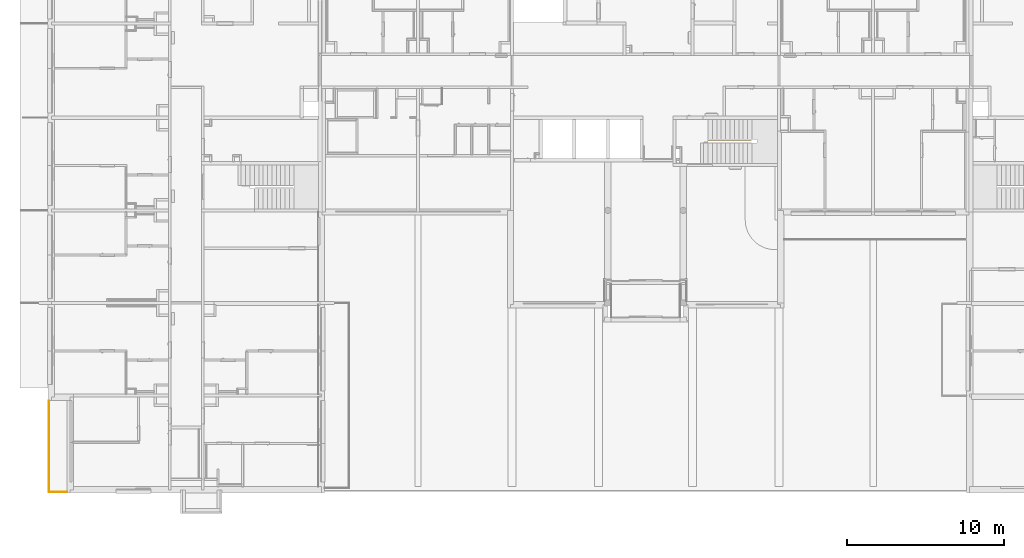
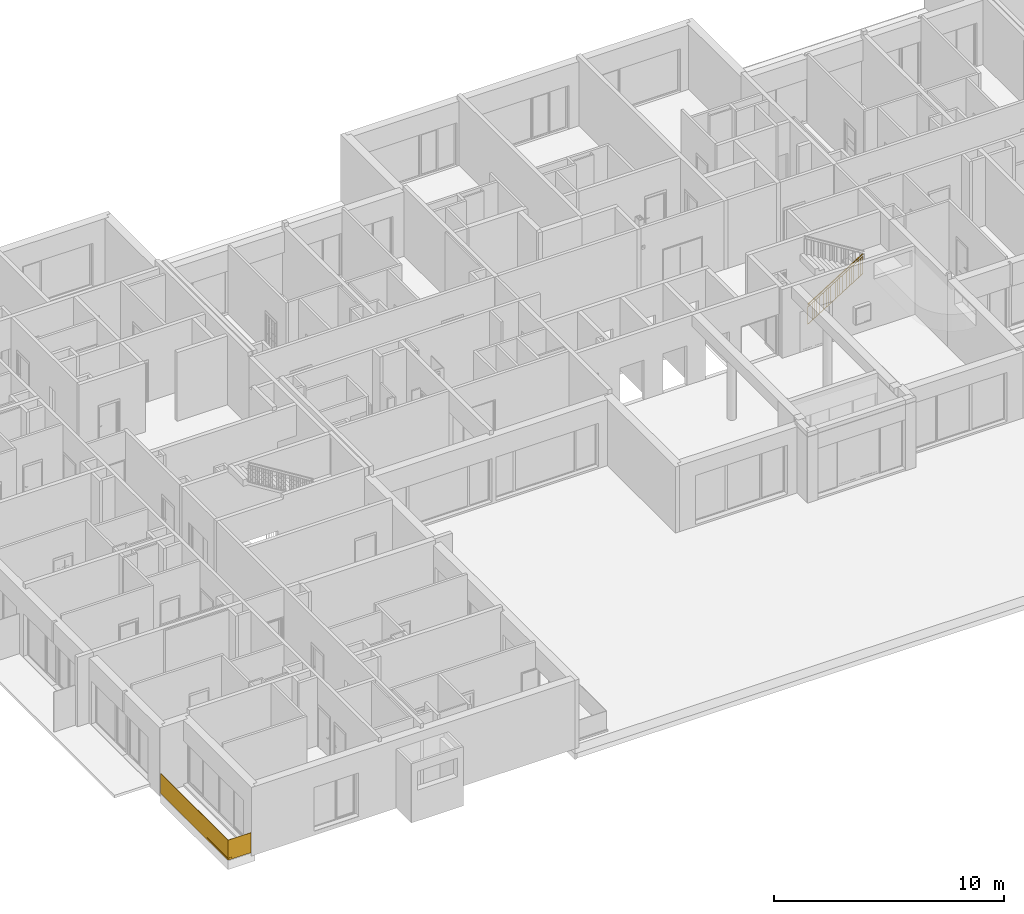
# One storey, part 5 of 46: 2 railings.
"""IFC2X3 building model written with IfcOpenShell, lengths in millimetres."""

from ifc_helpers import new_model, entity, si_unit, converted_unit, derived_unit, money_unit, direction, frame, origin_with_axes, place, context, subcontext, project, spatial, faceted_brep, material, material_list, type_object, element, save


model = new_model("IFC2X3")

# Units and contexts
model_context = context("Model", 3, precision=0.01, world=origin_with_axes(), true_north=direction((0.34421633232, 0.938890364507)))
body_context = subcontext(model_context, "Body", "Model", "MODEL_VIEW")
ifc_project = project(units=[si_unit("LENGTHUNIT", "METRE", prefix="MILLI"), si_unit("AREAUNIT", "SQUARE_METRE"), si_unit("VOLUMEUNIT", "CUBIC_METRE"), converted_unit("PLANEANGLEUNIT", "DEGREE", entity("IfcPlaneAngleMeasure", 0.0174532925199), si_unit("PLANEANGLEUNIT", "RADIAN"), dimensions=[0, 0, 0, 0, 0, 0, 0]), si_unit("SOLIDANGLEUNIT", "STERADIAN"), money_unit("USD"), converted_unit("TIMEUNIT", "Year", entity("IfcTimeMeasure", 31556926.0), si_unit("TIMEUNIT", "SECOND"), dimensions=[0, 0, 1, 0, 0, 0, 0]), si_unit("MASSUNIT", "GRAM", prefix="KILO"), si_unit("THERMODYNAMICTEMPERATUREUNIT", "DEGREE_CELSIUS"), si_unit("LUMINOUSINTENSITYUNIT", "LUMEN"), si_unit("ENERGYUNIT", "JOULE", prefix="MEGA"), derived_unit("THERMALCONDUCTANCEUNIT", [(si_unit("POWERUNIT", "WATT"), 1), (si_unit("LENGTHUNIT", "METRE"), -1), (si_unit("THERMODYNAMICTEMPERATUREUNIT", "KELVIN"), -1)]), derived_unit("SPECIFICHEATCAPACITYUNIT", [(si_unit("ENERGYUNIT", "JOULE"), 1), (si_unit("MASSUNIT", "GRAM", prefix="KILO"), -1), (si_unit("THERMODYNAMICTEMPERATUREUNIT", "KELVIN"), -1)]), derived_unit("MASSDENSITYUNIT", [(si_unit("MASSUNIT", "GRAM", prefix="KILO"), 1), (si_unit("VOLUMEUNIT", "CUBIC_METRE"), -1)])], contexts=[model_context])

# Site, building, storey
site_placement = place(None, origin_with_axes())
site = spatial("IfcSite", under=ifc_project, at=site_placement, Name="USTRONIE MORSKIE", CompositionType="ELEMENT")
building_placement = place(site_placement, origin_with_axes())
building = spatial("IfcBuilding", under=site, at=building_placement, Name="Budynek", CompositionType="ELEMENT")
storey_placement = place(building_placement, origin_with_axes())
storey = spatial("IfcBuildingStorey", under=building, at=storey_placement, Name="PARTER", CompositionType="ELEMENT", Elevation=0.0)

# Railings
ifc_material_1 = material(Name="Szkło struktualne")
ifc_material_2 = material(Name="Profile aluminiowe")
ifc_material_list_1 = material_list([ifc_material_1, ifc_material_2, ifc_material_1, ifc_material_2])
railing_type = type_object("IfcRailingType", Name="Typ balustrady", PredefinedType="NOTDEFINED")
railing_1_placement = place(storey_placement, frame((350367.920919, 720801.199105, 30.0), z_axis=(0.0, 0.0, 1.0), x_axis=(-1.0, 0.0, 0.0)))
element("IfcRailing", 1, at=railing_1_placement, inside=storey, type_object=railing_type, material=ifc_material_list_1, Name="BL1", PredefinedType="NOTDEFINED", context=body_context, shape_type="Brep", body=[
    faceted_brep([(540.000000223, 6020.00006852, -100.00000039), (540.000000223, 6020.00006852, 950.000000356), (540.000000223, 11840.0000688, 950.000000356), (540.000000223, 11840.0000688, -100.00000039), (559.999999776, 6020.00006852, 950.000000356), (559.999999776, 6020.00006852, -100.00000039), (559.999999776, 11860.0000684, 950.000000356), (559.999999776, 11860.0000684, -100.00000039)], [[[0, 1, 2, 3]], [[4, 1, 0, 5]], [[2, 1, 4, 6]], [[3, 2, 6, 7]], [[5, 0, 3, 7]], [[6, 4, 5, 7]]]),
    faceted_brep([(565.0, 11850.0000689, -5.0), (565.0, 6020.00006891, -5.0), (565.0, 6020.00006891, -105.0), (565.0, 11850.0000689, -105.0), (560.0, 11850.0000689, -5.0), (560.0, 6020.00006891, -5.0), (560.0, 6020.00006891, -100.0), (540.0, 6020.00006891, -100.0), (540.0, 6020.00006891, -5.0), (535.0, 6020.00006891, -5.0), (535.0, 6020.00006891, -105.0), (535.0, 11850.0000689, -105.0), (535.0, 11850.0000689, -5.0), (540.0, 11850.0000689, -5.0), (540.0, 11850.0000689, -100.0), (560.0, 11850.0000689, -100.0)], [[[0, 1, 2, 3]], [[1, 0, 4, 5]], [[6, 7, 8, 9, 10, 2, 1, 5]], [[10, 11, 3, 2]], [[11, 12, 13, 14, 15, 4, 0, 3]], [[15, 6, 5, 4]], [[7, 6, 15, 14]], [[8, 7, 14, 13]], [[9, 8, 13, 12]], [[11, 10, 9, 12]]]),
    faceted_brep([(540.000000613, 11840.0000691, -100.00000039), (540.000000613, 11840.0000691, 950.000000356), (-599.999999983, 11840.0000691, 950.000000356), (-599.999999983, 11840.0000691, -100.00000039), (560.000000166, 11860.0000687, 950.000000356), (560.000000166, 11860.0000687, -100.00000039), (-599.999999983, 11860.0000687, 950.000000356), (-599.999999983, 11860.0000687, -100.00000039)], [[[0, 1, 2, 3]], [[4, 1, 0, 5]], [[2, 1, 4, 6]], [[3, 2, 6, 7]], [[5, 0, 3, 7]], [[6, 4, 5, 7]]]),
    faceted_brep([(-600.0, 11865.0000689, -5.0), (550.0, 11865.0000689, -5.0), (550.0, 11865.0000689, -105.0), (-600.0, 11865.0000689, -105.0), (-600.0, 11860.0000689, -5.0), (550.0, 11860.0000689, -5.0), (550.0, 11860.0000689, -100.0), (550.0, 11840.0000689, -100.0), (550.0, 11840.0000689, -5.0), (550.0, 11835.0000689, -5.0), (550.0, 11835.0000689, -105.0), (-600.0, 11835.0000689, -105.0), (-600.0, 11835.0000689, -5.0), (-600.0, 11840.0000689, -5.0), (-600.0, 11840.0000689, -100.0), (-600.0, 11860.0000689, -100.0)], [[[0, 1, 2, 3]], [[1, 0, 4, 5]], [[6, 7, 8, 9, 10, 2, 1, 5]], [[10, 11, 3, 2]], [[11, 12, 13, 14, 15, 4, 0, 3]], [[15, 6, 5, 4]], [[7, 6, 15, 14]], [[8, 7, 14, 13]], [[9, 8, 13, 12]], [[11, 10, 9, 12]]]),
])
ifc_material_3 = material(Name="Stal konstrukcyjna")
ifc_material_4 = material(Name="Stal nierdzewna")
ifc_material_list_2 = material_list([ifc_material_3, ifc_material_3, ifc_material_4, ifc_material_4, ifc_material_4, ifc_material_3, ifc_material_3, ifc_material_3, ifc_material_3, ifc_material_3, ifc_material_3, ifc_material_3, ifc_material_3, ifc_material_3, ifc_material_3, ifc_material_3, ifc_material_3, ifc_material_3, ifc_material_3, ifc_material_3, ifc_material_3, ifc_material_3, ifc_material_3, ifc_material_3, ifc_material_3, ifc_material_3, ifc_material_3, ifc_material_3])
railing_2_placement = place(storey_placement, frame((391797.920919, 731401.199036, 173.913043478), z_axis=(0.0, 0.0, 1.0), x_axis=(1.0, 0.0, 0.0)))
element("IfcRailing", 2, at=railing_2_placement, inside=storey, type_object=railing_type, material=ifc_material_list_2, Name="BL1", PredefinedType="NOTDEFINED", context=body_context, shape_type="Brep", body=[
    faceted_brep([(9.99999999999, -45.0, -143.788819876), (9.99999999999, -25.0, -143.788819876), (9.99999999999, -25.0, 756.211180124), (9.99999999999, -45.0, 756.211180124), (-9.99999999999, -45.0, -156.211180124), (-9.99999999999, -25.0, -156.211180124), (5.0, -40.0, -146.894409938), (5.0, -30.0, -146.894409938), (-5.0, -30.0, -153.105590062), (-5.0, -40.0, -153.105590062), (-9.99999999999, -25.0, 743.788819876), (-9.99999999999, -45.0, 743.788819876), (5.0, -40.0, 753.105590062), (-5.0, -40.0, 746.894409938), (-5.0, -30.0, 746.894409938), (5.0, -30.0, 753.105590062)], [[[0, 1, 2, 3]], [[0, 4, 5, 1], [6, 7, 8, 9]], [[1, 5, 10, 2]], [[3, 2, 10, 11], [12, 13, 14, 15]], [[4, 0, 3, 11]], [[5, 4, 11, 10]], [[7, 6, 12, 15]], [[8, 7, 15, 14]], [[9, 8, 14, 13]], [[6, 9, 13, 12]]]),
    faceted_brep([(2776.0209167, -45.0, 1574.23659422), (2776.0209167, -25.0, 1574.23659422), (2776.0209167, -25.0, 2474.23659422), (2776.0209167, -45.0, 2474.23659422), (2756.0209167, -45.0, 1561.81423397), (2756.0209167, -25.0, 1561.81423397), (2771.0209167, -40.0, 1571.13100416), (2771.0209167, -30.0, 1571.13100416), (2761.0209167, -30.0, 1564.91982404), (2761.0209167, -40.0, 1564.91982404), (2756.0209167, -25.0, 2461.81423397), (2756.0209167, -45.0, 2461.81423397), (2771.0209167, -40.0, 2471.13100416), (2761.0209167, -40.0, 2464.91982404), (2761.0209167, -30.0, 2464.91982404), (2771.0209167, -30.0, 2471.13100416)], [[[0, 1, 2, 3]], [[0, 4, 5, 1], [6, 7, 8, 9]], [[1, 5, 10, 2]], [[3, 2, 10, 11], [12, 13, 14, 15]], [[4, 0, 3, 11]], [[5, 4, 11, 10]], [[7, 6, 12, 15]], [[8, 7, 15, 14]], [[9, 8, 14, 13]], [[6, 9, 13, 12]]]),
    faceted_brep([(0.0, -59.9999999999, 900.0), (13.1906379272, -59.9999999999, 878.763072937), (2779.21155463, -59.9999999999, 2596.78848704), (2766.0209167, -59.9999999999, 2618.0254141), (0.0, -9.99999999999, 900.0), (13.1906379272, -9.99999999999, 878.763072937), (13.1906379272, -25.0, 878.763072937), (10.5525103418, -25.0, 883.01045835), (10.5525103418, -45.0, 883.01045835), (13.1906379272, -45.0, 878.763072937), (2779.21155463, -45.0, 2596.78848704), (2776.57342704, -45.0, 2601.03587245), (2776.57342704, -25.0, 2601.03587245), (2779.21155463, -25.0, 2596.78848704), (2779.21155463, -9.99999999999, 2596.78848704), (2766.0209167, -9.99999999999, 2618.0254141)], [[[0, 1, 2, 3]], [[0, 4, 5, 6, 7, 8, 9, 1]], [[1, 9, 10, 2]], [[3, 2, 10, 11, 12, 13, 14, 15]], [[4, 0, 3, 15]], [[5, 4, 15, 14]], [[6, 5, 14, 13]], [[7, 6, 13, 12]], [[8, 7, 12, 11]], [[9, 8, 11, 10]]]),
    faceted_brep([(13.1906379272, -45.0, 878.763072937), (13.1906379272, -25.0, 878.763072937), (2779.21155463, -25.0, 2596.78848704), (2779.21155463, -45.0, 2596.78848704), (10.5525103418, -45.0, 883.01045835), (10.5525103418, -25.0, 883.01045835), (2776.57342704, -25.0, 2601.03587245), (2776.57342704, -45.0, 2601.03587245)], [[[0, 1, 2, 3]], [[0, 4, 5, 1]], [[1, 5, 6, 2]], [[3, 2, 6, 7]], [[4, 0, 3, 7]], [[5, 4, 7, 6]]]),
    faceted_brep([(44.9738541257, -45.0, 776.95140598), (44.9738541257, -25.0, 776.95140598), (44.9738541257, -25.0, 898.504201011), (44.9738541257, -45.0, 898.504201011), (39.9738541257, -45.0, 776.95140598), (39.9738541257, -25.0, 776.95140598), (39.9738541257, -25.0, 896.95140598), (42.4738541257, -25.0, 898.504201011), (42.4738541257, -45.0, 898.504201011), (39.9738541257, -45.0, 896.95140598)], [[[0, 1, 2, 3]], [[0, 4, 5, 1]], [[1, 5, 6, 7, 2]], [[3, 2, 7, 8]], [[4, 0, 3, 8, 9]], [[5, 4, 9, 6]], [[7, 6, 9, 8]]]),
    faceted_brep([(2726.04706257, -45.0, 2442.21426837), (2726.04706257, -25.0, 2442.21426837), (2726.04706257, -25.0, 2563.7670634), (2726.04706257, -45.0, 2563.7670634), (2721.04706257, -45.0, 2442.21426837), (2721.04706257, -25.0, 2442.21426837), (2721.04706257, -25.0, 2562.21426837), (2723.54706257, -25.0, 2563.7670634), (2723.54706257, -45.0, 2563.7670634), (2721.04706257, -45.0, 2562.21426837)], [[[0, 1, 2, 3]], [[0, 4, 5, 1]], [[1, 5, 6, 7, 2]], [[3, 2, 7, 8]], [[4, 0, 3, 8, 9]], [[5, 4, 9, 6]], [[7, 6, 9, 8]]]),
    faceted_brep([(0.0, -54.9999999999, 750.0), (2.63812758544, -54.9999999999, 745.752614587), (2768.65904428, -54.9999999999, 2463.77802869), (2766.0209167, -54.9999999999, 2468.0254141), (0.0, -15.0, 750.0), (2.63812758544, -15.0, 745.752614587), (2768.65904428, -15.0, 2463.77802869), (2766.0209167, -15.0, 2468.0254141)], [[[0, 1, 2, 3]], [[0, 4, 5, 1]], [[1, 5, 6, 2]], [[3, 2, 6, 7]], [[4, 0, 3, 7]], [[5, 4, 7, 6]]]),
    faceted_brep([(-1.31906379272, -54.9999999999, -157.876307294), (1.31906379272, -54.9999999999, -162.123692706), (2767.33998049, -54.9999999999, 1555.90172139), (2764.70185291, -54.9999999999, 1560.14910681), (-1.31906379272, -15.0, -157.876307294), (1.31906379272, -15.0, -162.123692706), (2767.33998049, -15.0, 1555.90172139), (2764.70185291, -15.0, 1560.14910681)], [[[0, 1, 2, 3]], [[0, 4, 5, 1]], [[1, 5, 6, 2]], [[3, 2, 6, 7]], [[4, 0, 3, 7]], [[5, 4, 7, 6]]]),
    faceted_brep([(117.750871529, -47.5, -81.8628127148), (117.750871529, -22.4999999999, -81.8628127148), (117.750871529, -22.4999999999, 818.137187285), (117.750871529, -47.5, 818.137187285), (112.750871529, -47.5, -84.9684027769), (112.750871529, -22.4999999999, -84.9684027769), (112.750871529, -22.4999999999, 815.031597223), (112.750871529, -47.5, 815.031597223)], [[[0, 1, 2, 3]], [[0, 4, 5, 1]], [[1, 5, 6, 2]], [[3, 2, 6, 7]], [[4, 0, 3, 7]], [[5, 4, 7, 6]]]),
    faceted_brep([(233.001743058, -47.5, -10.2784204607), (233.001743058, -22.4999999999, -10.2784204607), (233.001743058, -22.4999999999, 889.721579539), (233.001743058, -47.5, 889.721579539), (228.001743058, -47.5, -13.3840105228), (228.001743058, -22.4999999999, -13.3840105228), (228.001743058, -22.4999999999, 886.615989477), (228.001743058, -47.5, 886.615989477)], [[[0, 1, 2, 3]], [[0, 4, 5, 1]], [[1, 5, 6, 2]], [[3, 2, 6, 7]], [[4, 0, 3, 7]], [[5, 4, 7, 6]]]),
    faceted_brep([(348.252614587, -47.5, 61.3059717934), (348.252614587, -22.4999999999, 61.3059717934), (348.252614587, -22.4999999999, 961.305971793), (348.252614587, -47.5, 961.305971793), (343.252614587, -47.5, 58.2003817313), (343.252614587, -22.4999999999, 58.2003817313), (343.252614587, -22.4999999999, 958.200381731), (343.252614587, -47.5, 958.200381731)], [[[0, 1, 2, 3]], [[0, 4, 5, 1]], [[1, 5, 6, 2]], [[3, 2, 6, 7]], [[4, 0, 3, 7]], [[5, 4, 7, 6]]]),
    faceted_brep([(463.503486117, -47.5, 132.890364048), (463.503486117, -22.4999999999, 132.890364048), (463.503486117, -22.4999999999, 1032.89036405), (463.503486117, -47.5, 1032.89036405), (458.503486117, -47.5, 129.784773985), (458.503486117, -22.4999999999, 129.784773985), (458.503486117, -22.4999999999, 1029.78477399), (458.503486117, -47.5, 1029.78477399)], [[[0, 1, 2, 3]], [[0, 4, 5, 1]], [[1, 5, 6, 2]], [[3, 2, 6, 7]], [[4, 0, 3, 7]], [[5, 4, 7, 6]]]),
    faceted_brep([(578.754357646, -47.5, 204.474756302), (578.754357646, -22.4999999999, 204.474756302), (578.754357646, -22.4999999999, 1104.4747563), (578.754357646, -47.5, 1104.4747563), (573.754357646, -47.5, 201.36916624), (573.754357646, -22.4999999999, 201.36916624), (573.754357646, -22.4999999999, 1101.36916624), (573.754357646, -47.5, 1101.36916624)], [[[0, 1, 2, 3]], [[0, 4, 5, 1]], [[1, 5, 6, 2]], [[3, 2, 6, 7]], [[4, 0, 3, 7]], [[5, 4, 7, 6]]]),
    faceted_brep([(694.005229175, -47.5, 276.059148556), (694.005229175, -22.4999999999, 276.059148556), (694.005229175, -22.4999999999, 1176.05914856), (694.005229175, -47.5, 1176.05914856), (689.005229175, -47.5, 272.953558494), (689.005229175, -22.4999999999, 272.953558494), (689.005229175, -22.4999999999, 1172.95355849), (689.005229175, -47.5, 1172.95355849)], [[[0, 1, 2, 3]], [[0, 4, 5, 1]], [[1, 5, 6, 2]], [[3, 2, 6, 7]], [[4, 0, 3, 7]], [[5, 4, 7, 6]]]),
    faceted_brep([(809.256100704, -47.5, 347.64354081), (809.256100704, -22.4999999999, 347.64354081), (809.256100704, -22.4999999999, 1247.64354081), (809.256100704, -47.5, 1247.64354081), (804.256100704, -47.5, 344.537950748), (804.256100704, -22.4999999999, 344.537950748), (804.256100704, -22.4999999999, 1244.53795075), (804.256100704, -47.5, 1244.53795075)], [[[0, 1, 2, 3]], [[0, 4, 5, 1]], [[1, 5, 6, 2]], [[3, 2, 6, 7]], [[4, 0, 3, 7]], [[5, 4, 7, 6]]]),
    faceted_brep([(924.506972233, -47.5, 419.227933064), (924.506972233, -22.4999999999, 419.227933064), (924.506972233, -22.4999999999, 1319.22793306), (924.506972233, -47.5, 1319.22793306), (919.506972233, -47.5, 416.122343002), (919.506972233, -22.4999999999, 416.122343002), (919.506972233, -22.4999999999, 1316.122343), (919.506972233, -47.5, 1316.122343)], [[[0, 1, 2, 3]], [[0, 4, 5, 1]], [[1, 5, 6, 2]], [[3, 2, 6, 7]], [[4, 0, 3, 7]], [[5, 4, 7, 6]]]),
    faceted_brep([(1039.75784376, -47.5, 490.812325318), (1039.75784376, -22.4999999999, 490.812325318), (1039.75784376, -22.4999999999, 1390.81232532), (1039.75784376, -47.5, 1390.81232532), (1034.75784376, -47.5, 487.706735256), (1034.75784376, -22.4999999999, 487.706735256), (1034.75784376, -22.4999999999, 1387.70673526), (1034.75784376, -47.5, 1387.70673526)], [[[0, 1, 2, 3]], [[0, 4, 5, 1]], [[1, 5, 6, 2]], [[3, 2, 6, 7]], [[4, 0, 3, 7]], [[5, 4, 7, 6]]]),
    faceted_brep([(1155.00871529, -47.5, 562.396717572), (1155.00871529, -22.4999999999, 562.396717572), (1155.00871529, -22.4999999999, 1462.39671757), (1155.00871529, -47.5, 1462.39671757), (1150.00871529, -47.5, 559.29112751), (1150.00871529, -22.4999999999, 559.29112751), (1150.00871529, -22.4999999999, 1459.29112751), (1150.00871529, -47.5, 1459.29112751)], [[[0, 1, 2, 3]], [[0, 4, 5, 1]], [[1, 5, 6, 2]], [[3, 2, 6, 7]], [[4, 0, 3, 7]], [[5, 4, 7, 6]]]),
    faceted_brep([(1270.25958682, -47.5, 633.981109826), (1270.25958682, -22.4999999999, 633.981109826), (1270.25958682, -22.4999999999, 1533.98110983), (1270.25958682, -47.5, 1533.98110983), (1265.25958682, -47.5, 630.875519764), (1265.25958682, -22.4999999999, 630.875519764), (1265.25958682, -22.4999999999, 1530.87551976), (1265.25958682, -47.5, 1530.87551976)], [[[0, 1, 2, 3]], [[0, 4, 5, 1]], [[1, 5, 6, 2]], [[3, 2, 6, 7]], [[4, 0, 3, 7]], [[5, 4, 7, 6]]]),
    faceted_brep([(1385.51045835, -47.5, 705.565502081), (1385.51045835, -22.4999999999, 705.565502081), (1385.51045835, -22.4999999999, 1605.56550208), (1385.51045835, -47.5, 1605.56550208), (1380.51045835, -47.5, 702.459912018), (1380.51045835, -22.4999999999, 702.459912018), (1380.51045835, -22.4999999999, 1602.45991202), (1380.51045835, -47.5, 1602.45991202)], [[[0, 1, 2, 3]], [[0, 4, 5, 1]], [[1, 5, 6, 2]], [[3, 2, 6, 7]], [[4, 0, 3, 7]], [[5, 4, 7, 6]]]),
    faceted_brep([(1500.76132988, -47.5, 777.149894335), (1500.76132988, -22.4999999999, 777.149894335), (1500.76132988, -22.4999999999, 1677.14989433), (1500.76132988, -47.5, 1677.14989433), (1495.76132988, -47.5, 774.044304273), (1495.76132988, -22.4999999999, 774.044304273), (1495.76132988, -22.4999999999, 1674.04430427), (1495.76132988, -47.5, 1674.04430427)], [[[0, 1, 2, 3]], [[0, 4, 5, 1]], [[1, 5, 6, 2]], [[3, 2, 6, 7]], [[4, 0, 3, 7]], [[5, 4, 7, 6]]]),
    faceted_brep([(1616.01220141, -47.5, 848.734286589), (1616.01220141, -22.4999999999, 848.734286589), (1616.01220141, -22.4999999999, 1748.73428659), (1616.01220141, -47.5, 1748.73428659), (1611.01220141, -47.5, 845.628696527), (1611.01220141, -22.4999999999, 845.628696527), (1611.01220141, -22.4999999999, 1745.62869653), (1611.01220141, -47.5, 1745.62869653)], [[[0, 1, 2, 3]], [[0, 4, 5, 1]], [[1, 5, 6, 2]], [[3, 2, 6, 7]], [[4, 0, 3, 7]], [[5, 4, 7, 6]]]),
    faceted_brep([(1731.26307294, -47.5, 920.318678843), (1731.26307294, -22.4999999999, 920.318678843), (1731.26307294, -22.4999999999, 1820.31867884), (1731.26307294, -47.5, 1820.31867884), (1726.26307294, -47.5, 917.213088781), (1726.26307294, -22.4999999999, 917.213088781), (1726.26307294, -22.4999999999, 1817.21308878), (1726.26307294, -47.5, 1817.21308878)], [[[0, 1, 2, 3]], [[0, 4, 5, 1]], [[1, 5, 6, 2]], [[3, 2, 6, 7]], [[4, 0, 3, 7]], [[5, 4, 7, 6]]]),
    faceted_brep([(1846.51394447, -47.5, 991.903071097), (1846.51394447, -22.4999999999, 991.903071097), (1846.51394447, -22.4999999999, 1891.9030711), (1846.51394447, -47.5, 1891.9030711), (1841.51394447, -47.5, 988.797481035), (1841.51394447, -22.4999999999, 988.797481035), (1841.51394447, -22.4999999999, 1888.79748103), (1841.51394447, -47.5, 1888.79748103)], [[[0, 1, 2, 3]], [[0, 4, 5, 1]], [[1, 5, 6, 2]], [[3, 2, 6, 7]], [[4, 0, 3, 7]], [[5, 4, 7, 6]]]),
    faceted_brep([(1961.764816, -47.5, 1063.48746335), (1961.764816, -22.4999999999, 1063.48746335), (1961.764816, -22.4999999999, 1963.48746335), (1961.764816, -47.5, 1963.48746335), (1956.764816, -47.5, 1060.38187329), (1956.764816, -22.4999999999, 1060.38187329), (1956.764816, -22.4999999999, 1960.38187329), (1956.764816, -47.5, 1960.38187329)], [[[0, 1, 2, 3]], [[0, 4, 5, 1]], [[1, 5, 6, 2]], [[3, 2, 6, 7]], [[4, 0, 3, 7]], [[5, 4, 7, 6]]]),
    faceted_brep([(2077.01568752, -47.5, 1135.07185561), (2077.01568752, -22.4999999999, 1135.07185561), (2077.01568752, -22.4999999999, 2035.07185561), (2077.01568752, -47.5, 2035.07185561), (2072.01568752, -47.5, 1131.96626554), (2072.01568752, -22.4999999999, 1131.96626554), (2072.01568752, -22.4999999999, 2031.96626554), (2072.01568752, -47.5, 2031.96626554)], [[[0, 1, 2, 3]], [[0, 4, 5, 1]], [[1, 5, 6, 2]], [[3, 2, 6, 7]], [[4, 0, 3, 7]], [[5, 4, 7, 6]]]),
    faceted_brep([(2192.26655905, -47.5, 1206.65624786), (2192.26655905, -22.4999999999, 1206.65624786), (2192.26655905, -22.4999999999, 2106.65624786), (2192.26655905, -47.5, 2106.65624786), (2187.26655905, -47.5, 1203.5506578), (2187.26655905, -22.4999999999, 1203.5506578), (2187.26655905, -22.4999999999, 2103.5506578), (2187.26655905, -47.5, 2103.5506578)], [[[0, 1, 2, 3]], [[0, 4, 5, 1]], [[1, 5, 6, 2]], [[3, 2, 6, 7]], [[4, 0, 3, 7]], [[5, 4, 7, 6]]]),
    faceted_brep([(2307.51743058, -47.5, 1278.24064011), (2307.51743058, -22.4999999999, 1278.24064011), (2307.51743058, -22.4999999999, 2178.24064011), (2307.51743058, -47.5, 2178.24064011), (2302.51743058, -47.5, 1275.13505005), (2302.51743058, -22.4999999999, 1275.13505005), (2302.51743058, -22.4999999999, 2175.13505005), (2302.51743058, -47.5, 2175.13505005)], [[[0, 1, 2, 3]], [[0, 4, 5, 1]], [[1, 5, 6, 2]], [[3, 2, 6, 7]], [[4, 0, 3, 7]], [[5, 4, 7, 6]]]),
    faceted_brep([(2422.76830211, -47.5, 1349.82503237), (2422.76830211, -22.4999999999, 1349.82503237), (2422.76830211, -22.4999999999, 2249.82503237), (2422.76830211, -47.5, 2249.82503237), (2417.76830211, -47.5, 1346.71944231), (2417.76830211, -22.4999999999, 1346.71944231), (2417.76830211, -22.4999999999, 2246.71944231), (2417.76830211, -47.5, 2246.71944231)], [[[0, 1, 2, 3]], [[0, 4, 5, 1]], [[1, 5, 6, 2]], [[3, 2, 6, 7]], [[4, 0, 3, 7]], [[5, 4, 7, 6]]]),
    faceted_brep([(2538.01917364, -47.5, 1421.40942462), (2538.01917364, -22.4999999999, 1421.40942462), (2538.01917364, -22.4999999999, 2321.40942462), (2538.01917364, -47.5, 2321.40942462), (2533.01917364, -47.5, 1418.30383456), (2533.01917364, -22.4999999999, 1418.30383456), (2533.01917364, -22.4999999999, 2318.30383456), (2533.01917364, -47.5, 2318.30383456)], [[[0, 1, 2, 3]], [[0, 4, 5, 1]], [[1, 5, 6, 2]], [[3, 2, 6, 7]], [[4, 0, 3, 7]], [[5, 4, 7, 6]]]),
    faceted_brep([(2653.27004517, -47.5, 1492.99381688), (2653.27004517, -22.4999999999, 1492.99381688), (2653.27004517, -22.4999999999, 2392.99381688), (2653.27004517, -47.5, 2392.99381688), (2648.27004517, -47.5, 1489.88822681), (2648.27004517, -22.4999999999, 1489.88822681), (2648.27004517, -22.4999999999, 2389.88822681), (2648.27004517, -47.5, 2389.88822681)], [[[0, 1, 2, 3]], [[0, 4, 5, 1]], [[1, 5, 6, 2]], [[3, 2, 6, 7]], [[4, 0, 3, 7]], [[5, 4, 7, 6]]]),
])

save(model, "model.ifc")
